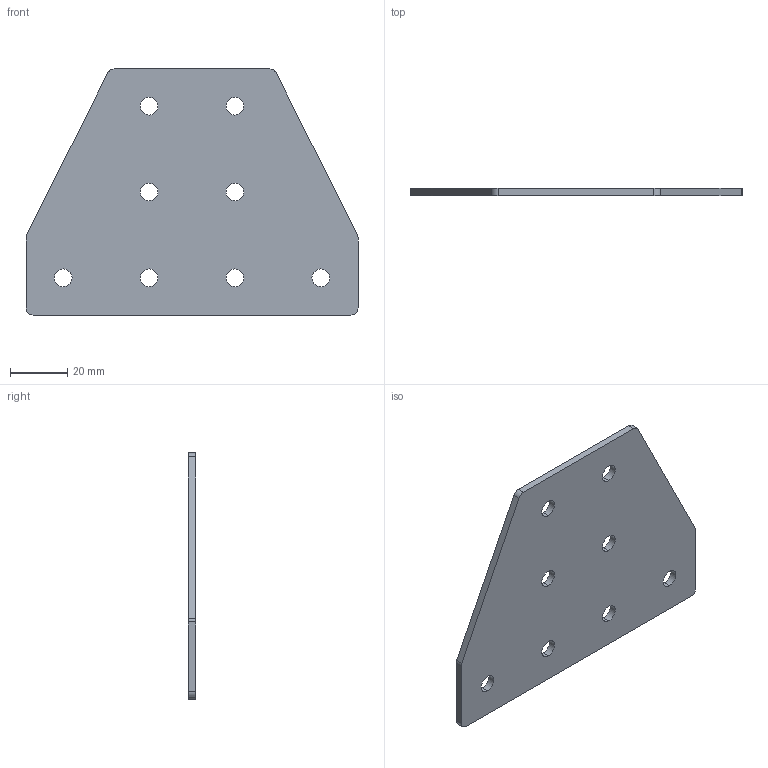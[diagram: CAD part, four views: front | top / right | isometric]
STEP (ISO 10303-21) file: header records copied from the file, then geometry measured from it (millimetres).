
FILE_DESCRIPTION (( 'STEP AP203' ), '1' );
FILE_NAME ('ﾒ-8-ﾓ-30.STEP', '2016-07-22T10:40:25', ( '' ), ( '' ), 'SwSTEP 2.0', 'SolidWorks 2014', '' );
FILE_SCHEMA (( 'CONFIG_CONTROL_DESIGN' ));
Length unit declared in the file: millimetre
Products named in the file (1): ﾒ-8-ﾓ-30
Bounding box: 116 x 2.5 x 86 mm (x, y, z)
Surface area: 17323.7 mm2 (no closed solid volume)
Topology: 0 solids, 1 shells, 30 faces, 84 edges, 56 vertices
Faces by surface type: cylinder 22, plane 8
Entity records: 1101 total; most frequent: DIRECTION 190, CARTESIAN_POINT 171, ORIENTED_EDGE 168, EDGE_CURVE 84, AXIS2_PLACEMENT_3D 75, VERTEX_POINT 56, EDGE_LOOP 46, CIRCLE 44
